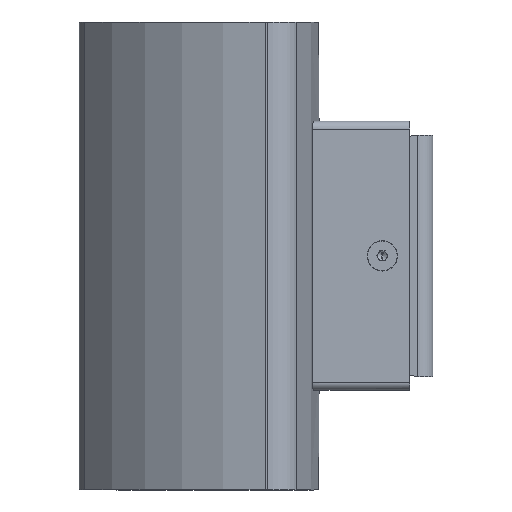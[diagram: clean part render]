
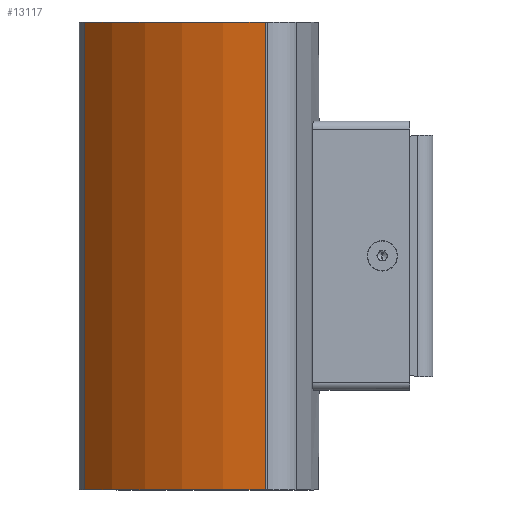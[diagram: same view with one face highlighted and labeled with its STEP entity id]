
A CAD part, left-side view. The second image highlights one B-rep face of the part: STEP entity #13117.
In plain terms, the highlighted cylindrical face has radius 63.5 mm (diameter 127 mm), a partial arc.
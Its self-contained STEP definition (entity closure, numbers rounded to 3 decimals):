
#99 = CARTESIAN_POINT ( 'NONE',  ( 31.899, -18.417, -60. ) ) ;
#112 = DIRECTION ( 'NONE',  ( 0., 0., -1. ) ) ;
#471 = ORIENTED_EDGE ( 'NONE', *, *, #5375, .F. ) ;
#918 = CARTESIAN_POINT ( 'NONE',  ( 31.899, -18.417, 60. ) ) ;
#1146 = VERTEX_POINT ( 'NONE', #5176 ) ;
#1269 = CYLINDRICAL_SURFACE ( 'NONE', #1695, 63.5 ) ;
#1695 = AXIS2_PLACEMENT_3D ( 'NONE', #2222, #6393, #12472 ) ;
#2060 = LINE ( 'NONE', #2266, #7127 ) ;
#2222 = CARTESIAN_POINT ( 'NONE',  ( 31.899, -18.417, 60. ) ) ;
#2266 = CARTESIAN_POINT ( 'NONE',  ( -4.598, 33.547, 60. ) ) ;
#2281 = CARTESIAN_POINT ( 'NONE',  ( -31.351, -12.791, 60. ) ) ;
#2575 = EDGE_LOOP ( 'NONE', ( #7184, #471, #3222, #13246 ) ) ;
#3084 = DIRECTION ( 'NONE',  ( 0., 0., 1. ) ) ;
#3222 = ORIENTED_EDGE ( 'NONE', *, *, #8651, .F. ) ;
#3428 = FACE_OUTER_BOUND ( 'NONE', #2575, .T. ) ;
#4038 = LINE ( 'NONE', #12266, #4861 ) ;
#4344 = AXIS2_PLACEMENT_3D ( 'NONE', #918, #8947, #9952 ) ;
#4861 = VECTOR ( 'NONE', #112, 1000. ) ;
#4930 = CARTESIAN_POINT ( 'NONE',  ( -4.598, 33.547, -60. ) ) ;
#5176 = CARTESIAN_POINT ( 'NONE',  ( -4.598, 33.547, 60. ) ) ;
#5375 = EDGE_CURVE ( 'NONE', #10005, #9276, #4038, .T. ) ;
#6393 = DIRECTION ( 'NONE',  ( 0., 0., -1. ) ) ;
#6466 = AXIS2_PLACEMENT_3D ( 'NONE', #99, #3084, #7193 ) ;
#7127 = VECTOR ( 'NONE', #11434, 1000. ) ;
#7184 = ORIENTED_EDGE ( 'NONE', *, *, #8745, .T. ) ;
#7193 = DIRECTION ( 'NONE',  ( 1., 0., 0. ) ) ;
#8651 = EDGE_CURVE ( 'NONE', #1146, #10005, #10144, .T. ) ;
#8745 = EDGE_CURVE ( 'NONE', #12939, #9276, #12529, .T. ) ;
#8778 = EDGE_CURVE ( 'NONE', #1146, #12939, #2060, .T. ) ;
#8947 = DIRECTION ( 'NONE',  ( 0., 0., 1. ) ) ;
#9276 = VERTEX_POINT ( 'NONE', #11141 ) ;
#9952 = DIRECTION ( 'NONE',  ( 1., 0., 0. ) ) ;
#10005 = VERTEX_POINT ( 'NONE', #2281 ) ;
#10144 = CIRCLE ( 'NONE', #4344, 63.5 ) ;
#11141 = CARTESIAN_POINT ( 'NONE',  ( -31.351, -12.791, -60. ) ) ;
#11434 = DIRECTION ( 'NONE',  ( 0., 0., -1. ) ) ;
#12266 = CARTESIAN_POINT ( 'NONE',  ( -31.351, -12.791, 60. ) ) ;
#12472 = DIRECTION ( 'NONE',  ( -1., 0., 0. ) ) ;
#12529 = CIRCLE ( 'NONE', #6466, 63.5 ) ;
#12939 = VERTEX_POINT ( 'NONE', #4930 ) ;
#13117 = ADVANCED_FACE ( 'NONE', ( #3428 ), #1269, .T. ) ;
#13246 = ORIENTED_EDGE ( 'NONE', *, *, #8778, .T. ) ;
